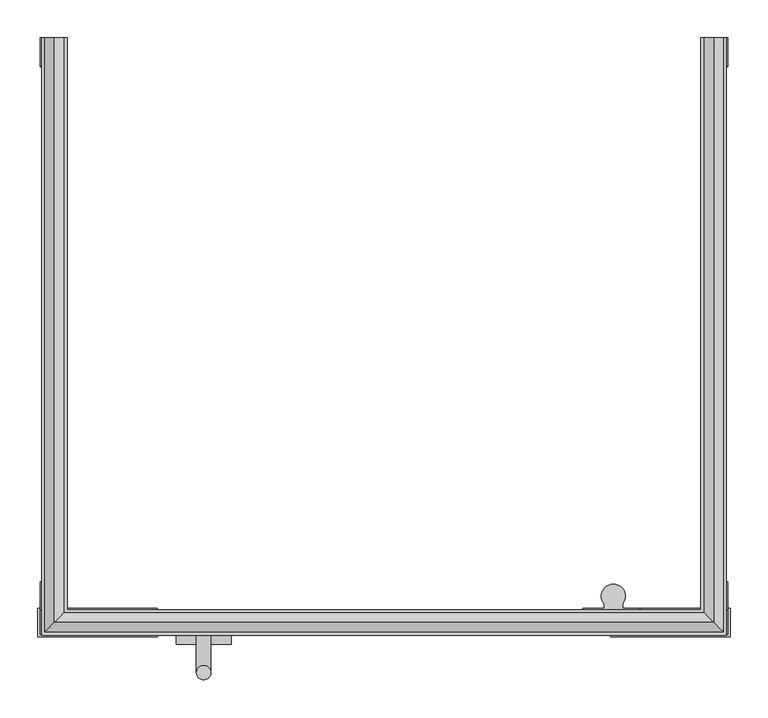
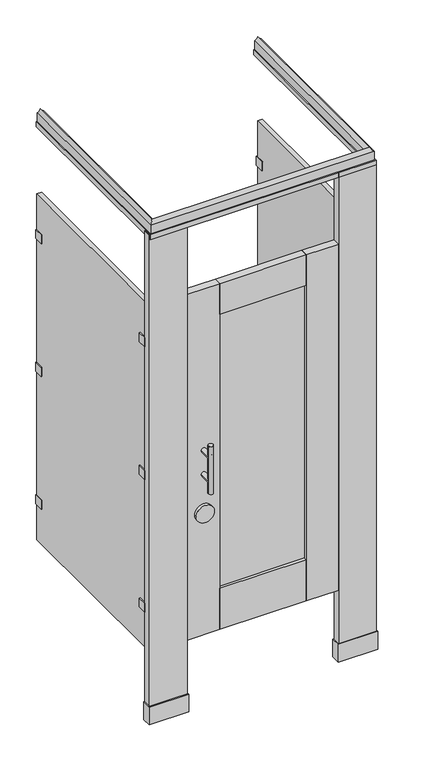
"""IFC4 building model written with IfcOpenShell, lengths in millimetres: proxy geometry, Toilet-Partition_Ironwood-Mfg_High-Pressure-Laminate : High Pressure Laminate - Headrail Braced - Captured Panel Door."""

from ifc_helpers import new_model, si_unit, point, frame, frame_2d, origin, origin_with_axes, place, context, project, spatial, polyline, circle_curve, ellipse_curve, trimmed, segment, composite_curve, outline, extrude, source, transform, mapped, element, save
from ifc_brep_helpers import plane_surface, cylinder_surface, revolved_surface, advanced_brep


def specialty_equipment_1c9599e0(model_context):
    return source(origin(), model_context, "Body", "SolidModel", [
        extrude(outline(polyline([(701.675, -758.825), (701.675, -796.925), (542.925, -796.925), (542.925, -758.825), (701.675, -758.825)])), origin_with_axes(), (0.0, 0.0, 1.0), 76.2),
        extrude(outline(polyline([(698.5, -762.0), (698.5, -793.75), (546.1, -793.75), (546.1, -762.0), (698.5, -762.0)])), origin_with_axes(), (0.0, 0.0, 1.0), 2082.8),
        extrude(outline(polyline([(-219.075, -758.825), (-60.325, -758.825), (-60.325, -796.925), (-219.075, -796.925), (-219.075, -758.825)])), origin_with_axes(), (0.0, 0.0, 1.0), 76.2),
        extrude(outline(polyline([(-215.9, -762.0), (-63.5, -762.0), (-63.5, -793.75), (-215.9, -793.75), (-215.9, -762.0)])), origin_with_axes(), (0.0, 0.0, 1.0), 2082.8),
        extrude(outline(polyline([(415.925, -781.1988281), (66.675, -781.1988281), (66.675, -774.5511719), (415.925, -774.5511719), (415.925, -781.1988281)])), frame((0.0, 0.0, 479.425), z_axis=(0.0, 0.0, 1.0), x_axis=(1.0, 0.0, 0.0)), (0.0, 0.0, 1.0), 1168.4),
        extrude(outline(polyline([(66.675, -762.0), (66.675, -793.75), (-63.5, -793.75), (-63.5, -762.0), (66.675, -762.0)])), frame((0.0, 0.0, 304.8), z_axis=(0.0, 0.0, 1.0), x_axis=(1.0, 0.0, 0.0)), (0.0, 0.0, 1.0), 1473.2),
        extrude(outline(polyline([(415.925, -762.0), (546.1, -762.0), (546.1, -793.75), (415.925, -793.75), (415.925, -762.0)])), frame((0.0, 0.0, 304.8), z_axis=(0.0, 0.0, 1.0), x_axis=(1.0, 0.0, 0.0)), (0.0, 0.0, 1.0), 1473.2),
        extrude(outline(polyline([(415.925, -762.0), (415.925, -793.75), (66.675, -793.75), (66.675, -762.0), (415.925, -762.0)])), frame((0.0, 0.0, 1647.825), z_axis=(0.0, 0.0, 1.0), x_axis=(1.0, 0.0, 0.0)), (0.0, 0.0, 1.0), 130.175),
        extrude(outline(polyline([(415.925, -762.0), (415.925, -793.75), (66.675, -793.75), (66.675, -762.0), (415.925, -762.0)])), frame((0.0, 0.0, 304.8), z_axis=(0.0, 0.0, 1.0), x_axis=(1.0, 0.0, 0.0)), (0.0, 0.0, 1.0), 174.625),
        extrude(outline(composite_curve([segment(trimmed(circle_curve(frame_2d((827.0875, 1.5875)), 36.5125), [point((827.0875, -34.925))], [point((827.0875, 38.1))], False, "CARTESIAN"), True, "CONTINUOUS"), segment(trimmed(circle_curve(frame_2d((827.0875, 1.5875)), 36.5125), [point((827.0875, 38.1))], [point((827.0875, -34.925))], False, "CARTESIAN"), True, "CONTINUOUS")], self_intersect=False)), frame((0.0, -806.45, 0.0), z_axis=(0.0, 1.0, 0.0), x_axis=(0.0, 0.0, 1.0)), (0.0, 0.0, 1.0), 12.7),
        advanced_brep(
        [(-7.9375, -793.75, 1092.2), (11.1125, -793.75, 1092.2), (-7.9375, -793.75, 990.6), (11.1125, -793.75, 990.6), (11.1125, -844.55, 1092.2), (-7.9375, -844.55, 1092.2), (11.1125, -844.55, 990.6), (-7.9375, -844.55, 990.6), (-7.9375, -844.55, 1143.0), (11.1125, -844.55, 1143.0), (-7.9375, -844.55, 939.8), (11.1125, -844.55, 939.8)],
        [
            (0, 1, circle_curve(frame((1.5875, -793.75, 1092.2), z_axis=(0.0, 1.0, 0.0), x_axis=(1.0, 0.0, 0.0)), 9.525)),
            (1, 0, circle_curve(frame((1.5875, -793.75, 1092.2), z_axis=(0.0, 1.0, 0.0), x_axis=(1.0, 0.0, 0.0)), 9.525)),
            (2, 3, circle_curve(frame((1.5875, -793.75, 990.6), z_axis=(0.0, 1.0, 0.0), x_axis=(1.0, 0.0, 0.0)), 9.525)),
            (3, 2, circle_curve(frame((1.5875, -793.75, 990.6), z_axis=(0.0, 1.0, 0.0), x_axis=(1.0, 0.0, 0.0)), 9.525)),
            (1, 4),
            (4, 5, ellipse_curve(frame((1.5875, -844.55, 1092.2), z_axis=(0.0, 0.7071067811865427, 0.7071067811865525), x_axis=(0.0, -0.7071067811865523, 0.7071067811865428)), 13.4703842, 9.525)),
            (5, 0),
            (5, 4, ellipse_curve(frame((1.5875, -844.55, 1092.2), z_axis=(0.0, 0.7071067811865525, -0.7071067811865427), x_axis=(0.0, -0.7071067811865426, -0.7071067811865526)), 13.4703842, 9.525)),
            (3, 6),
            (6, 7, ellipse_curve(frame((1.5875, -844.55, 990.6), z_axis=(0.0, 0.7071067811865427, 0.7071067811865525), x_axis=(0.0, -0.7071067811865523, 0.7071067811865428)), 13.4703842, 9.525)),
            (7, 2),
            (7, 6, ellipse_curve(frame((1.5875, -844.55, 990.6), z_axis=(0.0, 0.7071067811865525, -0.7071067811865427), x_axis=(0.0, -0.7071067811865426, -0.7071067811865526)), 13.4703842, 9.525)),
            (8, 9, circle_curve(frame((1.5875, -844.55, 1143.0), z_axis=(0.0, 0.0, 1.0), x_axis=(1.0, 0.0, 0.0)), 9.525)),
            (9, 8, circle_curve(frame((1.5875, -844.55, 1143.0), z_axis=(0.0, 0.0, 1.0), x_axis=(1.0, 0.0, 0.0)), 9.525)),
            (10, 11, circle_curve(frame((1.5875, -844.55, 939.8), z_axis=(0.0, 0.0, -1.0), x_axis=(1.0, 0.0, 0.0)), 9.525)),
            (11, 10, circle_curve(frame((1.5875, -844.55, 939.8), z_axis=(0.0, 0.0, -1.0), x_axis=(1.0, 0.0, 0.0)), 9.525)),
            (8, 5),
            (5, 7),
            (7, 10),
            (11, 6),
            (6, 4),
            (4, 9),
        ],
        [
            plane_surface(frame((11.1125, -793.75, 1092.2), z_axis=(0.0, 1.0, 0.0), x_axis=(0.0, 0.0, -1.0))),
            cylinder_surface(frame((1.5875, -793.75, 1092.2), z_axis=(0.0, -1.0, 0.0), x_axis=(1.0, 0.0, 0.0)), 9.525),
            cylinder_surface(frame((1.5875, -793.75, 990.6), z_axis=(0.0, -1.0, 0.0), x_axis=(1.0, 0.0, 0.0)), 9.525),
            plane_surface(frame((11.1125, -844.55, 1143.0), z_axis=(0.0, 0.0, 1.0), x_axis=(0.0, 1.0, 0.0))),
            plane_surface(frame((11.1125, -844.55, 939.8), z_axis=(0.0, 0.0, -1.0), x_axis=(0.0, -1.0, 0.0))),
            cylinder_surface(frame((1.5875, -844.55, 939.8), z_axis=(0.0, 0.0, 1.0), x_axis=(1.0, 0.0, 0.0)), 9.525),
        ],
        [
            (0, [[1, 2]]),
            (0, [[3, 4]]),
            (1, [[-2, 5, 6, 7]]),
            (1, [[-1, -7, 8, -5]]),
            (2, [[-4, 9, 10, 11]]),
            (2, [[-3, -11, 12, -9]]),
            (3, [[13, 14]]),
            (4, [[15, 16]]),
            (5, [[-13, 17, 18, 19, -16, 20, 21, 22]]),
            (5, [[-14, -22, -8, -17]]),
            (5, [[-15, -19, -10, -20]]),
            (5, [[-18, -6, -21, -12]]),
        ],
    ),
        extrude(outline(composite_curve([segment(polyline([(581.3737081, -762.0), (505.1737081, -762.0), (505.1737081, -758.825), (533.7487081, -758.825), (533.7487081, -752.9581331)]), True, "CONTINUOUS"), segment(trimmed(circle_curve(frame_2d((546.1, -742.8902139)), 15.9347861), [point((533.7487081, -752.9581331))], [point((558.4512919, -752.9581331))], False, "CARTESIAN"), True, "CONTINUOUS"), segment(polyline([(558.4512919, -752.9581331), (558.4512919, -758.825), (581.3737081, -758.825), (581.3737081, -762.0)]), True, "CONTINUOUS")], self_intersect=False)), frame((0.0, 0.0, 1574.8), z_axis=(0.0, 0.0, 1.0), x_axis=(1.0, 0.0, 0.0)), (0.0, 0.0, 1.0), 63.5),
        extrude(outline(composite_curve([segment(polyline([(581.3737081, -762.0), (505.1737081, -762.0), (505.1737081, -758.825), (533.7487081, -758.825), (533.7487081, -752.9581331)]), True, "CONTINUOUS"), segment(trimmed(circle_curve(frame_2d((546.1, -742.8902139)), 15.9347861), [point((533.7487081, -752.9581331))], [point((558.4512919, -752.9581331))], False, "CARTESIAN"), True, "CONTINUOUS"), segment(polyline([(558.4512919, -752.9581331), (558.4512919, -758.825), (581.3737081, -758.825), (581.3737081, -762.0)]), True, "CONTINUOUS")], self_intersect=False)), frame((0.0, 0.0, 1009.6500001), z_axis=(0.0, 0.0, 1.0), x_axis=(1.0, 0.0, 0.0)), (0.0, 0.0, 1.0), 63.5),
        extrude(outline(composite_curve([segment(polyline([(581.3737081, -762.0), (505.1737081, -762.0), (505.1737081, -758.825), (533.7487081, -758.825), (533.7487081, -752.9581331)]), True, "CONTINUOUS"), segment(trimmed(circle_curve(frame_2d((546.1, -742.8902139)), 15.9347861), [point((533.7487081, -752.9581331))], [point((558.4512919, -752.9581331))], False, "CARTESIAN"), True, "CONTINUOUS"), segment(polyline([(558.4512919, -752.9581331), (558.4512919, -758.825), (581.3737081, -758.825), (581.3737081, -762.0)]), True, "CONTINUOUS")], self_intersect=False)), frame((0.0, 0.0, 444.5), z_axis=(0.0, 0.0, 1.0), x_axis=(1.0, 0.0, 0.0)), (0.0, 0.0, 1.0), 63.5),
        extrude(outline(polyline([(676.148, -723.9), (676.148, -758.825), (695.198, -758.825), (695.198, -723.9), (698.373, -723.9), (698.373, -762.0), (672.973, -762.0), (672.973, -723.9), (676.148, -723.9)])), frame((0.0, 0.0, 1587.8188137), z_axis=(0.0, 0.0, 1.0), x_axis=(1.0, 0.0, 0.0)), (0.0, 0.0, 1.0), 38.1),
        extrude(outline(polyline([(676.148, -38.1), (672.973, -38.1), (672.973, 0.0), (698.373, 0.0), (698.373, -38.1), (695.198, -38.1), (695.198, -3.175), (676.148, -3.175), (676.148, -38.1)])), frame((0.0, 0.0, 1587.8188137), z_axis=(0.0, 0.0, 1.0), x_axis=(1.0, 0.0, 0.0)), (0.0, 0.0, 1.0), 38.1),
        extrude(outline(polyline([(676.148, -723.9), (676.148, -758.825), (695.198, -758.825), (695.198, -723.9), (698.373, -723.9), (698.373, -762.0), (672.973, -762.0), (672.973, -723.9), (676.148, -723.9)])), frame((0.0, 0.0, 1022.35), z_axis=(0.0, 0.0, 1.0), x_axis=(1.0, 0.0, 0.0)), (0.0, 0.0, 1.0), 38.1),
        extrude(outline(polyline([(676.148, -38.1), (672.973, -38.1), (672.973, 0.0), (698.373, 0.0), (698.373, -38.1), (695.198, -38.1), (695.198, -3.175), (676.148, -3.175), (676.148, -38.1)])), frame((0.0, 0.0, 1022.35), z_axis=(0.0, 0.0, 1.0), x_axis=(1.0, 0.0, 0.0)), (0.0, 0.0, 1.0), 38.1),
        extrude(outline(polyline([(676.148, -723.9), (676.148, -758.825), (695.198, -758.825), (695.198, -723.9), (698.373, -723.9), (698.373, -762.0), (672.973, -762.0), (672.973, -723.9), (676.148, -723.9)])), frame((0.0, 0.0, 457.2), z_axis=(0.0, 0.0, 1.0), x_axis=(1.0, 0.0, 0.0)), (0.0, 0.0, 1.0), 38.1),
        extrude(outline(polyline([(676.148, -38.1), (672.973, -38.1), (672.973, 0.0), (698.373, 0.0), (698.373, -38.1), (695.198, -38.1), (695.198, -3.175), (676.148, -3.175), (676.148, -38.1)])), frame((0.0, 0.0, 457.2), z_axis=(0.0, 0.0, 1.0), x_axis=(1.0, 0.0, 0.0)), (0.0, 0.0, 1.0), 38.1),
        extrude(outline(polyline([(-212.598, -723.9), (-212.598, -758.825), (-193.548, -758.825), (-193.548, -723.9), (-190.373, -723.9), (-190.373, -762.0), (-215.773, -762.0), (-215.773, -723.9), (-212.598, -723.9)])), frame((0.0, 0.0, 1587.8188137), z_axis=(0.0, 0.0, 1.0), x_axis=(1.0, 0.0, 0.0)), (0.0, 0.0, 1.0), 38.1),
        extrude(outline(polyline([(-212.598, -38.1), (-215.773, -38.1), (-215.773, 0.0), (-190.373, 0.0), (-190.373, -38.1), (-193.548, -38.1), (-193.548, -3.175), (-212.598, -3.175), (-212.598, -38.1)])), frame((0.0, 0.0, 1587.8188137), z_axis=(0.0, 0.0, 1.0), x_axis=(1.0, 0.0, 0.0)), (0.0, 0.0, 1.0), 38.1),
        extrude(outline(polyline([(-212.598, -723.9), (-212.598, -758.825), (-193.548, -758.825), (-193.548, -723.9), (-190.373, -723.9), (-190.373, -762.0), (-215.773, -762.0), (-215.773, -723.9), (-212.598, -723.9)])), frame((0.0, 0.0, 1022.35), z_axis=(0.0, 0.0, 1.0), x_axis=(1.0, 0.0, 0.0)), (0.0, 0.0, 1.0), 38.1),
        extrude(outline(polyline([(-212.598, -38.1), (-215.773, -38.1), (-215.773, 0.0), (-190.373, 0.0), (-190.373, -38.1), (-193.548, -38.1), (-193.548, -3.175), (-212.598, -3.175), (-212.598, -38.1)])), frame((0.0, 0.0, 1022.35), z_axis=(0.0, 0.0, 1.0), x_axis=(1.0, 0.0, 0.0)), (0.0, 0.0, 1.0), 38.1),
        extrude(outline(polyline([(-212.598, -723.9), (-212.598, -758.825), (-193.548, -758.825), (-193.548, -723.9), (-190.373, -723.9), (-190.373, -762.0), (-215.773, -762.0), (-215.773, -723.9), (-212.598, -723.9)])), frame((0.0, 0.0, 457.2), z_axis=(0.0, 0.0, 1.0), x_axis=(1.0, 0.0, 0.0)), (0.0, 0.0, 1.0), 38.1),
        extrude(outline(polyline([(-212.598, -38.1), (-215.773, -38.1), (-215.773, 0.0), (-190.373, 0.0), (-190.373, -38.1), (-193.548, -38.1), (-193.548, -3.175), (-212.598, -3.175), (-212.598, -38.1)])), frame((0.0, 0.0, 457.2), z_axis=(0.0, 0.0, 1.0), x_axis=(1.0, 0.0, 0.0)), (0.0, 0.0, 1.0), 38.1),
        extrude(outline(polyline([(-193.548, -3.175), (-193.548, -758.825), (-212.598, -758.825), (-212.598, -3.175), (-193.548, -3.175)])), frame((0.0, 0.0, 304.8), z_axis=(0.0, 0.0, 1.0), x_axis=(1.0, 0.0, 0.0)), (0.0, 0.0, 1.0), 1473.2),
        extrude(outline(polyline([(695.198, -3.175), (695.198, -758.825), (676.148, -758.825), (676.148, -3.175), (695.198, -3.175)])), frame((0.0, 0.0, 304.8), z_axis=(0.0, 0.0, 1.0), x_axis=(1.0, 0.0, 0.0)), (0.0, 0.0, 1.0), 1473.2),
        advanced_brep(
        [(663.448, 0.0, 2063.75), (662.257375, 0.0, 2063.75), (662.257375, 0.0, 2083.990625), (666.623, 0.0, 2083.990625), (666.623, 0.0, 2120.9), (679.323, 0.0, 2133.6), (692.023, 0.0, 2120.9), (692.023, 0.0, 2083.990625), (696.388625, 0.0, 2083.990625), (696.388625, 0.0, 2063.75), (695.198, 0.0, 2063.75), (695.198, 0.0, 2082.8), (663.448, 0.0, 2082.8), (667.813625, 0.0, 2119.709375), (667.813625, 0.0, 2083.990625), (690.832375, 0.0, 2083.990625), (690.832375, 0.0, 2119.709375), (679.323, 0.0, 2131.21875), (663.448, -762.0, 2063.75), (663.448, -762.0, 2082.8), (-180.848, -762.0, 2082.8), (-180.848, -762.0, 2063.75), (695.198, -793.75, 2082.8), (695.198, -793.75, 2063.75), (-212.598, -793.75, 2063.75), (-212.598, -793.75, 2082.8), (696.388625, -794.940625, 2063.75), (696.388625, -794.940625, 2083.990625), (-213.788625, -794.940625, 2083.990625), (-213.788625, -794.940625, 2063.75), (692.023, -790.575, 2083.990625), (692.023, -790.575, 2120.9), (-209.423, -790.575, 2120.9), (-209.423, -790.575, 2083.990625), (679.323, -777.875, 2133.6), (-196.723, -777.875, 2133.6), (666.623, -765.175, 2120.9), (-184.023, -765.175, 2120.9), (666.623, -765.175, 2083.990625), (-184.023, -765.175, 2083.990625), (662.257375, -760.809375, 2083.990625), (662.257375, -760.809375, 2063.75), (-179.657375, -760.809375, 2063.75), (-179.657375, -760.809375, 2083.990625), (667.813625, -766.365625, 2119.709375), (679.323, -777.875, 2131.21875), (-196.723, -777.875, 2131.21875), (-185.213625, -766.365625, 2119.709375), (690.832375, -789.384375, 2119.709375), (-208.232375, -789.384375, 2119.709375), (690.832375, -789.384375, 2083.990625), (-208.232375, -789.384375, 2083.990625), (667.813625, -766.365625, 2083.990625), (-185.213625, -766.365625, 2083.990625), (-180.848, 0.0, 2063.75), (-180.848, 0.0, 2082.8), (-212.598, 0.0, 2082.8), (-212.598, 0.0, 2063.75), (-213.788625, 0.0, 2063.75), (-213.788625, 0.0, 2083.990625), (-209.423, 0.0, 2083.990625), (-209.423, 0.0, 2120.9), (-196.723, 0.0, 2133.6), (-184.023, 0.0, 2120.9), (-184.023, 0.0, 2083.990625), (-179.657375, 0.0, 2083.990625), (-179.657375, 0.0, 2063.75), (-185.213625, 0.0, 2119.709375), (-196.723, 0.0, 2131.21875), (-208.232375, 0.0, 2119.709375), (-208.232375, 0.0, 2083.990625), (-185.213625, 0.0, 2083.990625)],
        [
            (0, 1),
            (1, 2),
            (2, 3),
            (3, 4),
            (4, 5, circle_curve(frame((649.9091809, 0.0, 2150.3138191), z_axis=(0.0, -1.0, 0.0), x_axis=(1.0, 0.0, 0.0)), 33.8308218)),
            (5, 6, circle_curve(frame((708.7368191, 0.0, 2150.3138191), z_axis=(0.0, -1.0, 0.0), x_axis=(1.0, 0.0, 0.0)), 33.8308218)),
            (6, 7),
            (7, 8),
            (8, 9),
            (9, 10),
            (10, 11),
            (11, 12),
            (12, 0),
            (13, 14),
            (14, 15),
            (15, 16),
            (16, 17, circle_curve(frame((709.9824574, 0.0, 2150.3688324), z_axis=(0.0, 1.0, 0.0), x_axis=(1.0, 0.0, 0.0)), 36.1486927)),
            (17, 13, circle_curve(frame((648.6635426, 0.0, 2150.3688324), z_axis=(0.0, 1.0, 0.0), x_axis=(1.0, 0.0, 0.0)), 36.1486927)),
            (18, 19),
            (19, 20),
            (20, 21),
            (21, 18),
            (22, 23),
            (23, 24),
            (24, 25),
            (25, 22),
            (26, 27),
            (27, 28),
            (28, 29),
            (29, 26),
            (30, 31),
            (31, 32),
            (32, 33),
            (33, 30),
            (31, 34, ellipse_curve(frame((708.7368191, -807.2888191, 2150.3138191), z_axis=(0.7071067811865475, 0.7071067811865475, 0.0), x_axis=(-0.7071067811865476, 0.7071067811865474, 0.0)), 47.844007, 33.8308218)),
            (34, 35),
            (35, 32, ellipse_curve(frame((-226.1368191, -807.2888191, 2150.3138191), z_axis=(-0.7071067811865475, 0.7071067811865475, 0.0), x_axis=(-0.7071067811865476, -0.7071067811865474, 0.0)), 47.844007, 33.8308218)),
            (34, 36, ellipse_curve(frame((649.9091809, -748.4611809, 2150.3138191), z_axis=(0.7071067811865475, 0.7071067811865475, 0.0), x_axis=(-0.7071067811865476, 0.7071067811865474, 0.0)), 47.844007, 33.8308218)),
            (36, 37),
            (37, 35, ellipse_curve(frame((-167.3091809, -748.4611809, 2150.3138191), z_axis=(-0.7071067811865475, 0.7071067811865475, 0.0), x_axis=(-0.7071067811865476, -0.7071067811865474, 0.0)), 47.844007, 33.8308218)),
            (36, 38),
            (38, 39),
            (39, 37),
            (40, 41),
            (41, 42),
            (42, 43),
            (43, 40),
            (44, 45, ellipse_curve(frame((648.6635426, -747.2155426, 2150.3688324), z_axis=(-0.7071067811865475, -0.7071067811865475, 0.0), x_axis=(0.7071067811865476, -0.7071067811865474, 0.0)), 51.1219715, 36.1486927)),
            (45, 46),
            (46, 47, ellipse_curve(frame((-166.0635426, -747.2155426, 2150.3688324), z_axis=(0.7071067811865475, -0.7071067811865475, 0.0), x_axis=(0.7071067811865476, 0.7071067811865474, 0.0)), 51.1219715, 36.1486927)),
            (47, 44),
            (45, 48, ellipse_curve(frame((709.9824574, -808.5344574, 2150.3688324), z_axis=(-0.7071067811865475, -0.7071067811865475, 0.0), x_axis=(0.7071067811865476, -0.7071067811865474, 0.0)), 51.1219715, 36.1486927)),
            (48, 49),
            (49, 46, ellipse_curve(frame((-227.3824574, -808.5344574, 2150.3688324), z_axis=(0.7071067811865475, -0.7071067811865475, 0.0), x_axis=(0.7071067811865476, 0.7071067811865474, 0.0)), 51.1219715, 36.1486927)),
            (48, 50),
            (50, 51),
            (51, 49),
            (52, 44),
            (47, 53),
            (53, 52),
            (54, 55),
            (55, 56),
            (56, 57),
            (57, 58),
            (58, 59),
            (59, 60),
            (60, 61),
            (61, 62, circle_curve(frame((-226.1368191, 0.0, 2150.3138191), z_axis=(0.0, -1.0, 0.0), x_axis=(-1.0, 0.0, 0.0)), 33.8308218)),
            (62, 63, circle_curve(frame((-167.3091809, 0.0, 2150.3138191), z_axis=(0.0, -1.0, 0.0), x_axis=(-1.0, 0.0, 0.0)), 33.8308218)),
            (63, 64),
            (64, 65),
            (65, 66),
            (66, 54),
            (67, 68, circle_curve(frame((-166.0635426, 0.0, 2150.3688324), z_axis=(0.0, 1.0, 0.0), x_axis=(-1.0, 0.0, 0.0)), 36.1486927)),
            (68, 69, circle_curve(frame((-227.3824574, 0.0, 2150.3688324), z_axis=(0.0, 1.0, 0.0), x_axis=(-1.0, 0.0, 0.0)), 36.1486927)),
            (69, 70),
            (70, 71),
            (71, 67),
            (20, 55),
            (54, 21),
            (24, 57),
            (56, 25),
            (28, 59),
            (58, 29),
            (32, 61),
            (60, 33),
            (35, 62),
            (37, 63),
            (39, 64),
            (42, 66),
            (65, 43),
            (46, 68),
            (67, 47),
            (49, 69),
            (51, 70),
            (71, 53),
            (0, 18),
            (41, 1),
            (40, 2),
            (38, 3),
            (36, 4),
            (34, 5),
            (31, 6),
            (30, 7),
            (27, 8),
            (26, 9),
            (23, 10),
            (22, 11),
            (19, 12),
            (13, 44),
            (52, 14),
            (50, 15),
            (48, 16),
            (45, 17),
        ],
        [
            plane_surface(frame((695.198, 0.0, 0.0), z_axis=(0.0, 1.0, 0.0), x_axis=(0.0, 0.0, 1.0))),
            plane_surface(frame((663.448, -762.0, 2082.8), z_axis=(0.0, -1.0, 0.0), x_axis=(-1.0, 0.0, 0.0))),
            plane_surface(frame((695.198, -793.75, 2063.75), z_axis=(0.0, 1.0, 0.0), x_axis=(-1.0, 0.0, 0.0))),
            plane_surface(frame((696.388625, -794.940625, 2083.990625), z_axis=(0.0, -1.0, 0.0), x_axis=(-1.0, 0.0, 0.0))),
            plane_surface(frame((692.023, -790.575, 2120.9), z_axis=(0.0, -1.0, 0.0), x_axis=(-1.0, 0.0, 0.0))),
            revolved_surface(polyline([(-259.9676408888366, -841.1196408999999, 2150.3138191), (742.5676408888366, -841.1196408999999, 2150.3138191)]), (695.198, -807.2888191, 2150.3138191), (-1.0, 0.0, 0.0)),
            revolved_surface(polyline([(-201.1400026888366, -782.2920027, 2150.3138191), (683.7400026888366, -782.2920027, 2150.3138191)]), (695.198, -748.4611809, 2150.3138191), (-1.0, 0.0, 0.0)),
            plane_surface(frame((666.623, -765.175, 2083.990625), z_axis=(0.0, 1.0, 0.0), x_axis=(-1.0, 0.0, 0.0))),
            plane_surface(frame((662.257375, -760.809375, 2063.75), z_axis=(0.0, 1.0, 0.0), x_axis=(-1.0, 0.0, 0.0))),
            cylinder_surface(frame((695.198, -747.2155426, 2150.3688324), z_axis=(1.0, 0.0, 0.0), x_axis=(0.0, -1.0, 0.0)), 36.1486927),
            cylinder_surface(frame((695.198, -808.5344574, 2150.3688324), z_axis=(1.0, 0.0, 0.0), x_axis=(0.0, -1.0, 0.0)), 36.1486927),
            plane_surface(frame((690.832375, -789.384375, 2083.990625), z_axis=(0.0, 1.0, 0.0), x_axis=(-1.0, 0.0, 0.0))),
            plane_surface(frame((667.813625, -766.365625, 2119.709375), z_axis=(0.0, -1.0, 0.0), x_axis=(-1.0, 0.0, 0.0))),
            plane_surface(frame((-212.598, 0.0, 0.0), z_axis=(0.0, 1.0, 0.0), x_axis=(0.0, 0.0, 1.0))),
            plane_surface(frame((-180.848, -762.0, 2082.8), z_axis=(-1.0, 0.0, 0.0), x_axis=(0.0, 1.0, 0.0))),
            plane_surface(frame((-212.598, -793.75, 2063.75), z_axis=(1.0, 0.0, 0.0), x_axis=(0.0, 1.0, 0.0))),
            plane_surface(frame((-213.788625, -794.940625, 2083.990625), z_axis=(-1.0, 0.0, 0.0), x_axis=(0.0, 1.0, 0.0))),
            plane_surface(frame((-209.423, -790.575, 2120.9), z_axis=(-1.0, 0.0, 0.0), x_axis=(0.0, 1.0, 0.0))),
            revolved_surface(polyline([(-259.9676409, 0.0, 2150.3138191), (-259.9676409, -841.1196408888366, 2150.3138191)]), (-226.1368191, -793.75, 2150.3138191), (0.0, 1.0, 0.0)),
            revolved_surface(polyline([(-201.1400027, 0.0, 2150.3138191), (-201.1400027, -782.2920026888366, 2150.3138191)]), (-167.3091809, -793.75, 2150.3138191), (0.0, 1.0, 0.0)),
            plane_surface(frame((-184.023, -765.175, 2083.990625), z_axis=(1.0, 0.0, 0.0), x_axis=(0.0, 1.0, 0.0))),
            plane_surface(frame((-179.657375, -760.809375, 2063.75), z_axis=(1.0, 0.0, 0.0), x_axis=(0.0, 1.0, 0.0))),
            cylinder_surface(frame((-166.0635426, -793.75, 2150.3688324), z_axis=(0.0, -1.0, 0.0), x_axis=(-1.0, 0.0, 0.0)), 36.1486927),
            cylinder_surface(frame((-227.3824574, -793.75, 2150.3688324), z_axis=(0.0, -1.0, 0.0), x_axis=(-1.0, 0.0, 0.0)), 36.1486927),
            plane_surface(frame((-208.232375, -789.384375, 2083.990625), z_axis=(1.0, 0.0, 0.0), x_axis=(0.0, 1.0, 0.0))),
            plane_surface(frame((-185.213625, -766.365625, 2119.709375), z_axis=(-1.0, 0.0, 0.0), x_axis=(0.0, 1.0, 0.0))),
            plane_surface(frame((663.448, 0.0, 2063.75), z_axis=(0.0, 0.0, -1.0), x_axis=(0.0, -1.0, 0.0))),
            plane_surface(frame((662.257375, 0.0, 2063.75), z_axis=(-1.0, 0.0, 0.0), x_axis=(0.0, -1.0, 0.0))),
            plane_surface(frame((662.257375, 0.0, 2083.990625), z_axis=(0.0, 0.0, 1.0), x_axis=(0.0, -1.0, 0.0))),
            plane_surface(frame((666.623, 0.0, 2083.990625), z_axis=(-1.0, 0.0, 0.0), x_axis=(0.0, -1.0, 0.0))),
            revolved_surface(polyline([(683.7400027, -782.2920026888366, 2150.3138191), (683.7400027, 0.0, 2150.3138191)]), (649.9091809, 0.0, 2150.3138191), (0.0, -1.0, 0.0)),
            revolved_surface(polyline([(742.5676409, -841.1196408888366, 2150.3138191), (742.5676409, 0.0, 2150.3138191)]), (708.7368191, 0.0, 2150.3138191), (0.0, -1.0, 0.0)),
            plane_surface(frame((692.023, 0.0, 2120.9), z_axis=(1.0, 0.0, 0.0), x_axis=(0.0, -1.0, 0.0))),
            plane_surface(frame((692.023, 0.0, 2083.990625), z_axis=(0.0, 0.0, 1.0), x_axis=(0.0, -1.0, 0.0))),
            plane_surface(frame((696.388625, 0.0, 2083.990625), z_axis=(1.0, 0.0, 0.0), x_axis=(0.0, -1.0, 0.0))),
            plane_surface(frame((696.388625, 0.0, 2063.75), z_axis=(0.0, 0.0, -1.0), x_axis=(0.0, -1.0, 0.0))),
            plane_surface(frame((695.198, 0.0, 2063.75), z_axis=(-1.0, 0.0, 0.0), x_axis=(0.0, -1.0, 0.0))),
            plane_surface(frame((695.198, 0.0, 2082.8), z_axis=(0.0, 0.0, -1.0), x_axis=(0.0, -1.0, 0.0))),
            plane_surface(frame((663.448, 0.0, 2082.8), z_axis=(1.0, 0.0, 0.0), x_axis=(0.0, -1.0, 0.0))),
            plane_surface(frame((667.813625, 0.0, 2119.709375), z_axis=(1.0, 0.0, 0.0), x_axis=(0.0, -1.0, 0.0))),
            plane_surface(frame((667.813625, 0.0, 2083.990625), z_axis=(0.0, 0.0, 1.0), x_axis=(0.0, -1.0, 0.0))),
            plane_surface(frame((690.832375, 0.0, 2083.990625), z_axis=(-1.0, 0.0, 0.0), x_axis=(0.0, -1.0, 0.0))),
            cylinder_surface(frame((709.9824574, 0.0, 2150.3688324), z_axis=(0.0, 1.0, 0.0), x_axis=(1.0, 0.0, 0.0)), 36.1486927),
            cylinder_surface(frame((648.6635426, 0.0, 2150.3688324), z_axis=(0.0, 1.0, 0.0), x_axis=(1.0, 0.0, 0.0)), 36.1486927),
        ],
        [
            (0, [[1, 2, 3, 4, 5, 6, 7, 8, 9, 10, 11, 12, 13], [14, 15, 16, 17, 18]]),
            (1, [[19, 20, 21, 22]]),
            (2, [[23, 24, 25, 26]]),
            (3, [[27, 28, 29, 30]]),
            (4, [[31, 32, 33, 34]]),
            (5, [[35, 36, 37, -32]]),
            (6, [[38, 39, 40, -36]]),
            (7, [[41, 42, 43, -39]]),
            (8, [[44, 45, 46, 47]]),
            (9, [[48, 49, 50, 51]]),
            (10, [[52, 53, 54, -49]]),
            (11, [[55, 56, 57, -53]]),
            (12, [[58, -51, 59, 60]]),
            (13, [[61, 62, 63, 64, 65, 66, 67, 68, 69, 70, 71, 72, 73], [74, 75, 76, 77, 78]]),
            (14, [[-21, 79, -61, 80]]),
            (15, [[-25, 81, -63, 82]]),
            (16, [[-29, 83, -65, 84]]),
            (17, [[-33, 85, -67, 86]]),
            (18, [[-37, 87, -68, -85]]),
            (19, [[-40, 88, -69, -87]]),
            (20, [[-43, 89, -70, -88]]),
            (21, [[-46, 90, -72, 91]]),
            (22, [[-50, 92, -74, 93]]),
            (23, [[-54, 94, -75, -92]]),
            (24, [[-57, 95, -76, -94]]),
            (25, [[-59, -93, -78, 96]]),
            (26, [[-1, 97, -22, -80, -73, -90, -45, 98]]),
            (27, [[-2, -98, -44, 99]]),
            (28, [[-3, -99, -47, -91, -71, -89, -42, 100]]),
            (29, [[-4, -100, -41, 101]]),
            (30, [[-5, -101, -38, 102]]),
            (31, [[-6, -102, -35, 103]]),
            (32, [[-7, -103, -31, 104]]),
            (33, [[-8, -104, -34, -86, -66, -83, -28, 105]]),
            (34, [[-9, -105, -27, 106]]),
            (35, [[-10, -106, -30, -84, -64, -81, -24, 107]]),
            (36, [[-11, -107, -23, 108]]),
            (37, [[-12, -108, -26, -82, -62, -79, -20, 109]]),
            (38, [[-13, -109, -19, -97]]),
            (39, [[-14, 110, -58, 111]]),
            (40, [[-15, -111, -60, -96, -77, -95, -56, 112]]),
            (41, [[-16, -112, -55, 113]]),
            (42, [[-17, -113, -52, 114]]),
            (43, [[-18, -114, -48, -110]]),
        ],
    ),
    ])


if __name__ == "__main__":
    model = new_model("IFC4")
    model_context = context("Model", 3, world=origin())
    ifc_project = project(units=[si_unit("LENGTHUNIT", "METRE", prefix="MILLI")], contexts=[model_context])
    site = spatial("IfcSite", under=ifc_project)
    building = spatial("IfcBuilding", under=site)
    placement = place(None, origin())
    specialty_equipment_shape = specialty_equipment_1c9599e0(model_context)
    element("IfcBuildingElementProxy", 1, Name="Toilet-Partition_Ironwood-Mfg_High-Pressure-Laminate : High Pressure Laminate - Headrail Braced - Captured Panel Door", ObjectType="Toilet-Partition_Ironwood-Mfg_High-Pressure-Laminate : High Pressure Laminate - Headrail Braced - Captured Panel Door", at=placement, inside=building, context=model_context, shape_type="MappedRepresentation", body=[
        mapped(specialty_equipment_shape, transform((0.0, 0.0, 0.0), x_axis=(1.0, 0.0, 0.0), y_axis=(0.0, 1.0, 0.0), z_axis=(0.0, 0.0, 1.0))),
    ])
    save(model, "model.ifc")
